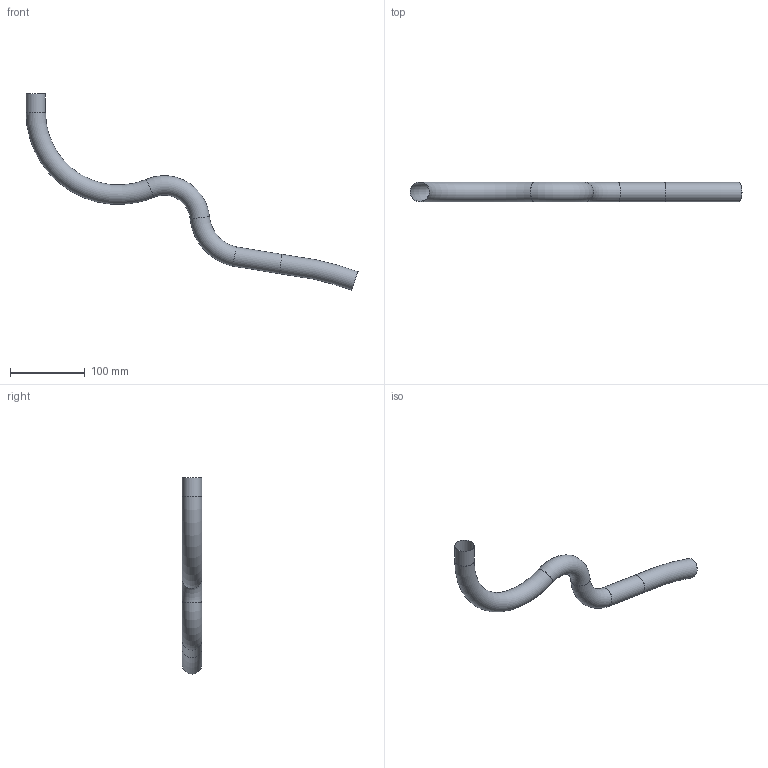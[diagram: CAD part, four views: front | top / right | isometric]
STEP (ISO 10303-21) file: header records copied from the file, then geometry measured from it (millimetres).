
FILE_DESCRIPTION(/* description */ (''),/* implementation_level */ '2;1');
FILE_NAME(/* name */ 'C:\Users\user\Documents\Inventor\Home Ventilator CPAP\hose for mask.stp',/* time_stamp */ '2020-03-29T22:39:19+02:00',/* author */ ('user'),/* organization */ (''),/* preprocessor_version */ 'ST-DEVELOPER v16.5',/* originating_system */ 'Autodesk Inventor 2017',/* authorisation */ '');
FILE_SCHEMA (('AUTOMOTIVE_DESIGN { 1 0 10303 214 3 1 1 }'));
Length unit declared in the file: millimetre
Products named in the file (1): hose for mask
Bounding box: 443.1 x 26 x 261.71 mm (x, y, z)
Volume: 13781.4 mm3; surface area: 91924.7 mm2
Topology: 1 solids, 1 shells, 14 faces, 26 edges, 14 vertices
Faces by surface type: torus 10, cylinder 2, plane 2
Full cylindrical faces by diameter (mm): 25.4 x1, 26 x1
Entity records: 339 total; most frequent: DIRECTION 58, CARTESIAN_POINT 43, AXIS2_PLACEMENT_3D 29, EDGE_LOOP 28, ORIENTED_EDGE 28, STYLED_ITEM 15, FACE_BOUND 14, FACE_OUTER_BOUND 14
